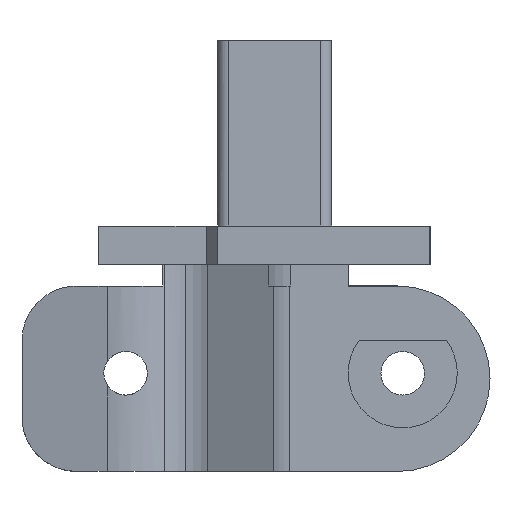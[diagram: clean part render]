
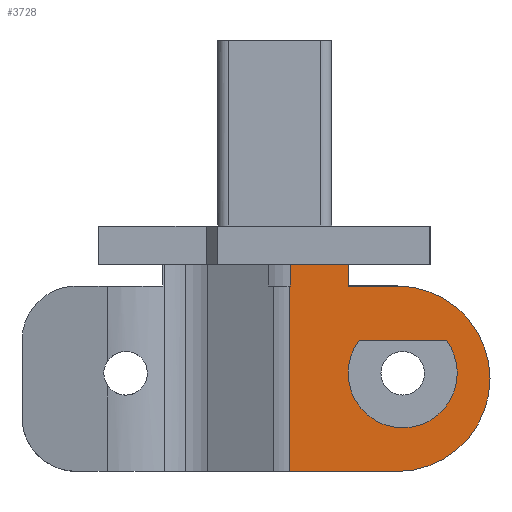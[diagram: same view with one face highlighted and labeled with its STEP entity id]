
A CAD part, left-side view. The second image highlights one B-rep face of the part: STEP entity #3728.
In plain terms, the highlighted planar face has unit normal (-1, 0, 0).
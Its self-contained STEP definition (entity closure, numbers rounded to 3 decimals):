
#497 = CIRCLE ( 'NONE', #644, 8.5 ) ;
#642 = DIRECTION ( 'NONE',  ( 0., -1., 0. ) ) ;
#643 = DIRECTION ( 'NONE',  ( 1., 0., 0. ) ) ;
#644 = AXIS2_PLACEMENT_3D ( 'NONE', #662, #643, #642 ) ;
#662 = CARTESIAN_POINT ( 'NONE',  ( 154.9, 71.8, -9.858 ) ) ;
#671 = CARTESIAN_POINT ( 'NONE',  ( 154.9, 71.8, -18.358 ) ) ;
#690 = CARTESIAN_POINT ( 'NONE',  ( 154.9, 66.3, -9.358 ) ) ;
#703 = CARTESIAN_POINT ( 'NONE',  ( 154.9, 76.3, -9.358 ) ) ;
#828 = CIRCLE ( 'NONE', #857, 5. ) ;
#857 = AXIS2_PLACEMENT_3D ( 'NONE', #909, #908, #907 ) ;
#907 = DIRECTION ( 'NONE',  ( 0., 1., 0. ) ) ;
#908 = DIRECTION ( 'NONE',  ( -1., 0., 0. ) ) ;
#909 = CARTESIAN_POINT ( 'NONE',  ( 154.9, 71.3, -9.358 ) ) ;
#926 = CARTESIAN_POINT ( 'NONE',  ( 154.9, 67.3, -6.358 ) ) ;
#1465 = CARTESIAN_POINT ( 'NONE',  ( 154.9, 63.3, -9.858 ) ) ;
#1499 = DIRECTION ( 'NONE',  ( 0., 1., 0. ) ) ;
#1500 = VECTOR ( 'NONE', #1499, 1000. ) ;
#1501 = CARTESIAN_POINT ( 'NONE',  ( 154.9, 63.3, -18.358 ) ) ;
#1502 = LINE ( 'NONE', #1501, #1500 ) ;
#1610 = CARTESIAN_POINT ( 'NONE',  ( 154.9, 63.3, -1.358 ) ) ;
#1611 = LINE ( 'NONE', #1610, #1624 ) ;
#1624 = VECTOR ( 'NONE', #1654, 1000. ) ;
#1629 = CARTESIAN_POINT ( 'NONE',  ( 154.9, 71.3, -9.358 ) ) ;
#1639 = DIRECTION ( 'NONE',  ( 0., 1., 0. ) ) ;
#1640 = DIRECTION ( 'NONE',  ( -1., 0., 0. ) ) ;
#1641 = DIRECTION ( 'NONE',  ( 0., 0., 1. ) ) ;
#1642 = CARTESIAN_POINT ( 'NONE',  ( 154.9, 81.716, -18.358 ) ) ;
#1643 = LINE ( 'NONE', #1642, #1660 ) ;
#1654 = DIRECTION ( 'NONE',  ( 0., -1., 0. ) ) ;
#1655 = AXIS2_PLACEMENT_3D ( 'NONE', #1629, #1640, #1639 ) ;
#1658 = CIRCLE ( 'NONE', #1655, 5. ) ;
#1659 = CARTESIAN_POINT ( 'NONE',  ( 154.9, 81.716, -18.358 ) ) ;
#1660 = VECTOR ( 'NONE', #1641, 1000. ) ;
#2123 = VERTEX_POINT ( 'NONE', #2760 ) ;
#2124 = VERTEX_POINT ( 'NONE', #2788 ) ;
#2128 = EDGE_CURVE ( 'NONE', #2140, #4472, #2803, .T. ) ;
#2132 = VERTEX_POINT ( 'NONE', #2831 ) ;
#2136 = EDGE_CURVE ( 'NONE', #2124, #2140, #2835, .T. ) ;
#2140 = VERTEX_POINT ( 'NONE', #2829 ) ;
#2150 = VERTEX_POINT ( 'NONE', #2873 ) ;
#2247 = EDGE_CURVE ( 'NONE', #4185, #4177, #3092, .T. ) ;
#2574 = EDGE_CURVE ( 'NONE', #4232, #2123, #5000, .T. ) ;
#2760 = CARTESIAN_POINT ( 'NONE',  ( 154.9, 75.3, -6.358 ) ) ;
#2788 = CARTESIAN_POINT ( 'NONE',  ( 154.9, 76.3, -1.358 ) ) ;
#2796 = DIRECTION ( 'NONE',  ( 0., -1., 0. ) ) ;
#2797 = DIRECTION ( 'NONE',  ( 1., 0., 0. ) ) ;
#2798 = CARTESIAN_POINT ( 'NONE',  ( 154.9, 71.8, -9.858 ) ) ;
#2803 = CIRCLE ( 'NONE', #2808, 8.5 ) ;
#2808 = AXIS2_PLACEMENT_3D ( 'NONE', #2798, #2797, #2796 ) ;
#2822 = DIRECTION ( 'NONE',  ( 0., -1., 0. ) ) ;
#2823 = VECTOR ( 'NONE', #2822, 1000. ) ;
#2829 = CARTESIAN_POINT ( 'NONE',  ( 154.9, 71.8, -1.358 ) ) ;
#2831 = CARTESIAN_POINT ( 'NONE',  ( 154.9, 81.615, -1.358 ) ) ;
#2834 = CARTESIAN_POINT ( 'NONE',  ( 154.9, 63.3, -1.358 ) ) ;
#2835 = LINE ( 'NONE', #2834, #2823 ) ;
#2873 = CARTESIAN_POINT ( 'NONE',  ( 154.9, 81.716, -1.358 ) ) ;
#3077 = DIRECTION ( 'NONE',  ( 0., 1., 0. ) ) ;
#3081 = AXIS2_PLACEMENT_3D ( 'NONE', #3087, #3084, #3077 ) ;
#3084 = DIRECTION ( 'NONE',  ( -1., 0., 0. ) ) ;
#3087 = CARTESIAN_POINT ( 'NONE',  ( 154.9, 71.3, -9.358 ) ) ;
#3092 = CIRCLE ( 'NONE', #3081, 5. ) ;
#3728 = ADVANCED_FACE ( 'NONE', ( #5689, #5694 ), #5651, .F. ) ;
#3732 = ORIENTED_EDGE ( 'NONE', *, *, #2247, .F. ) ;
#3734 = ORIENTED_EDGE ( 'NONE', *, *, #3853, .F. ) ;
#3738 = ORIENTED_EDGE ( 'NONE', *, *, #2574, .F. ) ;
#3739 = ORIENTED_EDGE ( 'NONE', *, *, #4553, .F. ) ;
#3740 = ORIENTED_EDGE ( 'NONE', *, *, #3847, .F. ) ;
#3741 = VERTEX_POINT ( 'NONE', #5752 ) ;
#3747 = EDGE_LOOP ( 'NONE', ( #3740, #3851, #3734, #3850, #3856, #3833, #3854, #3805, #3806 ) ) ;
#3765 = EDGE_CURVE ( 'NONE', #3779, #3741, #5770, .T. ) ;
#3772 = EDGE_LOOP ( 'NONE', ( #3738, #3870, #3732, #3739 ) ) ;
#3779 = VERTEX_POINT ( 'NONE', #5806 ) ;
#3805 = ORIENTED_EDGE ( 'NONE', *, *, #2128, .F. ) ;
#3806 = ORIENTED_EDGE ( 'NONE', *, *, #2136, .F. ) ;
#3833 = ORIENTED_EDGE ( 'NONE', *, *, #4479, .F. ) ;
#3847 = EDGE_CURVE ( 'NONE', #3779, #2124, #6018, .T. ) ;
#3850 = ORIENTED_EDGE ( 'NONE', *, *, #4548, .F. ) ;
#3851 = ORIENTED_EDGE ( 'NONE', *, *, #3765, .T. ) ;
#3853 = EDGE_CURVE ( 'NONE', #2132, #3741, #6060, .T. ) ;
#3854 = ORIENTED_EDGE ( 'NONE', *, *, #4140, .F. ) ;
#3856 = ORIENTED_EDGE ( 'NONE', *, *, #4554, .F. ) ;
#3870 = ORIENTED_EDGE ( 'NONE', *, *, #4224, .F. ) ;
#4140 = EDGE_CURVE ( 'NONE', #4472, #4173, #497, .T. ) ;
#4173 = VERTEX_POINT ( 'NONE', #671 ) ;
#4177 = VERTEX_POINT ( 'NONE', #690 ) ;
#4185 = VERTEX_POINT ( 'NONE', #703 ) ;
#4224 = EDGE_CURVE ( 'NONE', #4177, #4232, #828, .T. ) ;
#4232 = VERTEX_POINT ( 'NONE', #926 ) ;
#4472 = VERTEX_POINT ( 'NONE', #1465 ) ;
#4479 = EDGE_CURVE ( 'NONE', #4173, #4549, #1502, .T. ) ;
#4548 = EDGE_CURVE ( 'NONE', #2150, #2132, #1611, .T. ) ;
#4549 = VERTEX_POINT ( 'NONE', #1659 ) ;
#4553 = EDGE_CURVE ( 'NONE', #2123, #4185, #1658, .T. ) ;
#4554 = EDGE_CURVE ( 'NONE', #4549, #2150, #1643, .T. ) ;
#4993 = DIRECTION ( 'NONE',  ( 0., 1., 0. ) ) ;
#4994 = VECTOR ( 'NONE', #4993, 1000. ) ;
#4995 = CARTESIAN_POINT ( 'NONE',  ( 154.9, 63.3, -6.358 ) ) ;
#5000 = LINE ( 'NONE', #4995, #4994 ) ;
#5651 = PLANE ( 'NONE',  #5724 ) ;
#5689 = FACE_BOUND ( 'NONE', #3772, .T. ) ;
#5694 = FACE_OUTER_BOUND ( 'NONE', #3747, .T. ) ;
#5724 = AXIS2_PLACEMENT_3D ( 'NONE', #5755, #5754, #5753 ) ;
#5752 = CARTESIAN_POINT ( 'NONE',  ( 154.9, 81.615, 0.642 ) ) ;
#5753 = DIRECTION ( 'NONE',  ( 0., 1., 0. ) ) ;
#5754 = DIRECTION ( 'NONE',  ( 1., 0., 0. ) ) ;
#5755 = CARTESIAN_POINT ( 'NONE',  ( 154.9, 63.3, -18.358 ) ) ;
#5765 = DIRECTION ( 'NONE',  ( 0., 1., 0. ) ) ;
#5768 = VECTOR ( 'NONE', #5765, 1000. ) ;
#5769 = CARTESIAN_POINT ( 'NONE',  ( 154.9, 98.2, 0.642 ) ) ;
#5770 = LINE ( 'NONE', #5769, #5768 ) ;
#5806 = CARTESIAN_POINT ( 'NONE',  ( 154.9, 76.3, 0.642 ) ) ;
#5966 = DIRECTION ( 'NONE',  ( 0., 0., -1. ) ) ;
#5967 = CARTESIAN_POINT ( 'NONE',  ( 154.9, 76.3, -18.358 ) ) ;
#6018 = LINE ( 'NONE', #5967, #6061 ) ;
#6057 = DIRECTION ( 'NONE',  ( 0., 0., 1. ) ) ;
#6058 = VECTOR ( 'NONE', #6057, 1000. ) ;
#6059 = CARTESIAN_POINT ( 'NONE',  ( 154.9, 81.615, 0.642 ) ) ;
#6060 = LINE ( 'NONE', #6059, #6058 ) ;
#6061 = VECTOR ( 'NONE', #5966, 1000. ) ;
